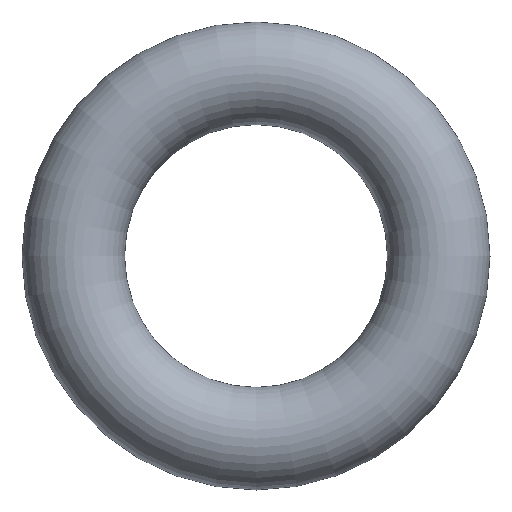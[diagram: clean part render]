
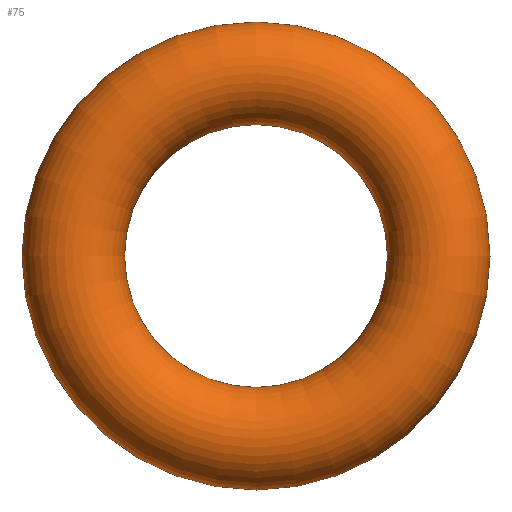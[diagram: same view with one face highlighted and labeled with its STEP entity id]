
A CAD part, front view. The second image highlights one B-rep face of the part: STEP entity #75.
In plain terms, the highlighted toroidal (fillet/blend) face has major radius 2.85 mm and minor radius 0.8 mm.
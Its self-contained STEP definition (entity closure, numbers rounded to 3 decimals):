
#75 = ADVANCED_FACE( '', ( #77 ), #78, .T. );
#77 = FACE_BOUND( '', #79, .T. );
#78 = TOROIDAL_SURFACE( '', #80, 2.85, 0.8 );
#79 = VERTEX_LOOP( '', #81 );
#80 = AXIS2_PLACEMENT_3D( '', #82, #83, #84 );
#81 = VERTEX_POINT( '', #85 );
#82 = CARTESIAN_POINT( '', ( 0., 0., 0. ) );
#83 = DIRECTION( '', ( 0., -1., 0. ) );
#84 = DIRECTION( '', ( 0., 0., -1. ) );
#85 = CARTESIAN_POINT( '', ( 0., 0., -3.65 ) );
